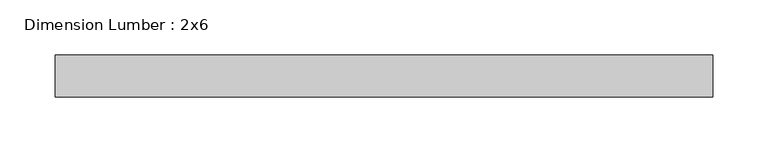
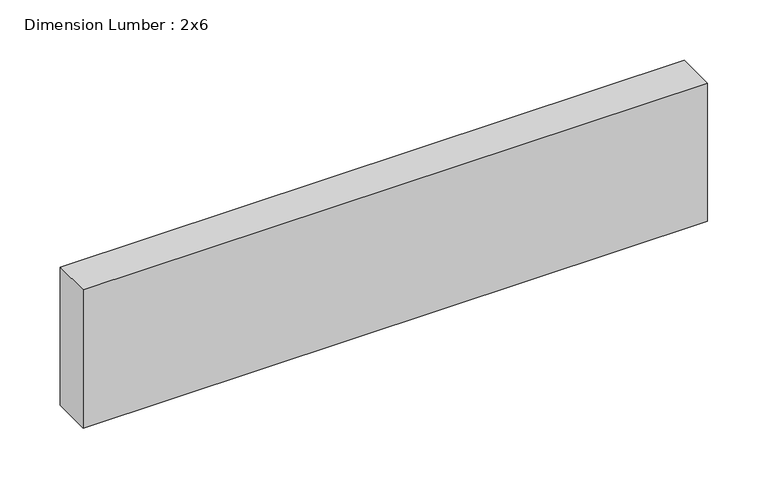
"""IFC4 building model written with IfcOpenShell, lengths in millimetres: beam geometry, Dimension Lumber : 2x6."""

from ifc_helpers import new_model, si_unit, frame, origin, place, context, project, spatial, polyline, outline, extrude, source, transform, mapped, element, save


def dimension_lumber_2x6_535eb954(model_context):
    return source(origin(), model_context, "Body", "SweptSolid", [
        extrude(outline(polyline([(298.45, 19.05), (298.45, -19.05), (-298.45, -19.05), (-298.45, 19.05), (298.45, 19.05)])), frame((0.0, 0.0, -69.85), z_axis=(0.0, 0.0, 1.0), x_axis=(1.0, 0.0, 0.0)), (0.0, 0.0, 1.0), 139.7),
    ])


if __name__ == "__main__":
    model = new_model("IFC4")
    model_context = context("Model", 3, world=origin())
    ifc_project = project(units=[si_unit("LENGTHUNIT", "METRE", prefix="MILLI")], contexts=[model_context])
    site = spatial("IfcSite", under=ifc_project)
    building = spatial("IfcBuilding", under=site)
    placement = place(None, origin())
    dimension_lumber_2x6_shape = dimension_lumber_2x6_535eb954(model_context)
    element("IfcBeam", 1, ObjectType="Dimension Lumber : 2x6", at=placement, inside=building, context=model_context, shape_type="MappedRepresentation", body=[
        mapped(dimension_lumber_2x6_shape, transform((0.0, 0.0, 0.0), x_axis=(1.0, 0.0, 0.0), y_axis=(0.0, 1.0, 0.0), z_axis=(0.0, 0.0, 1.0))),
    ])
    save(model, "model.ifc")
